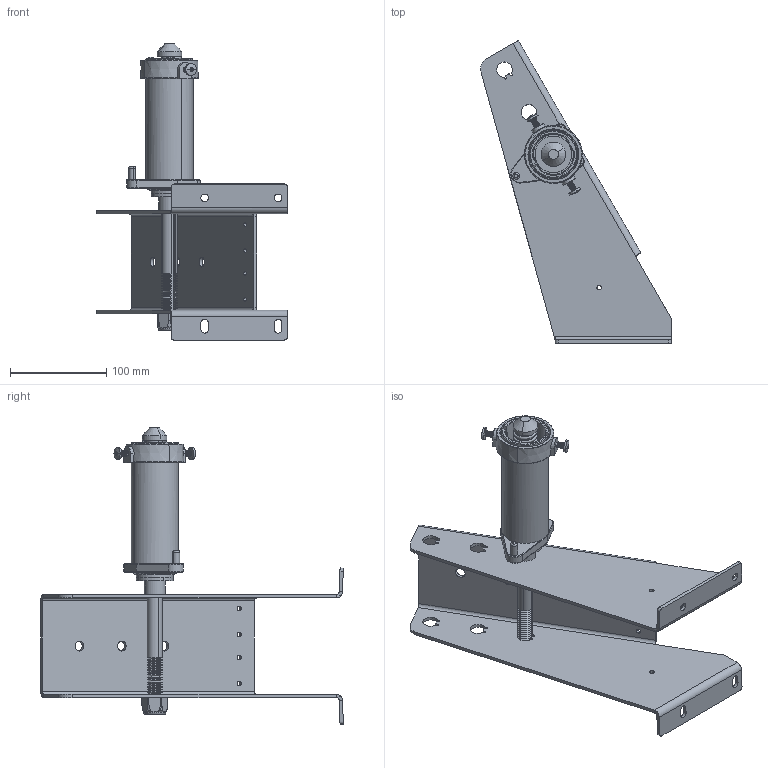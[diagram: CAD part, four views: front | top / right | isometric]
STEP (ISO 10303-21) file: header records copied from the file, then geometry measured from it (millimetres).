
FILE_DESCRIPTION (( 'STEP AP214' ), '1' );
FILE_NAME ('301753.STEP', '2024-05-28T16:25:36', ( '' ), ( '' ), 'SwSTEP 2.0', 'SolidWorks 2022', '' );
FILE_SCHEMA (( 'AUTOMOTIVE_DESIGN' ));
Length unit declared in the file: inch
Products named in the file (1): 301753
Bounding box: 197.75 x 313.86 x 307.2 mm (x, y, z)
Volume: 513478.9 mm3; surface area: 292256.4 mm2
Topology: 20 solids, 20 shells, 925 faces, 2416 edges, 1514 vertices
Faces by surface type: cylinder 409, plane 254, cone 110, torus 75, bspline 62, sphere 15
Entity records: 47191 total; most frequent: CARTESIAN_POINT 12471, ORIENTED_EDGE 4774, DIRECTION 4740, EDGE_CURVE 2387, AXIS2_PLACEMENT_3D 1911, VERTEX_POINT 1511, CIRCLE 1047, EDGE_LOOP 1002
